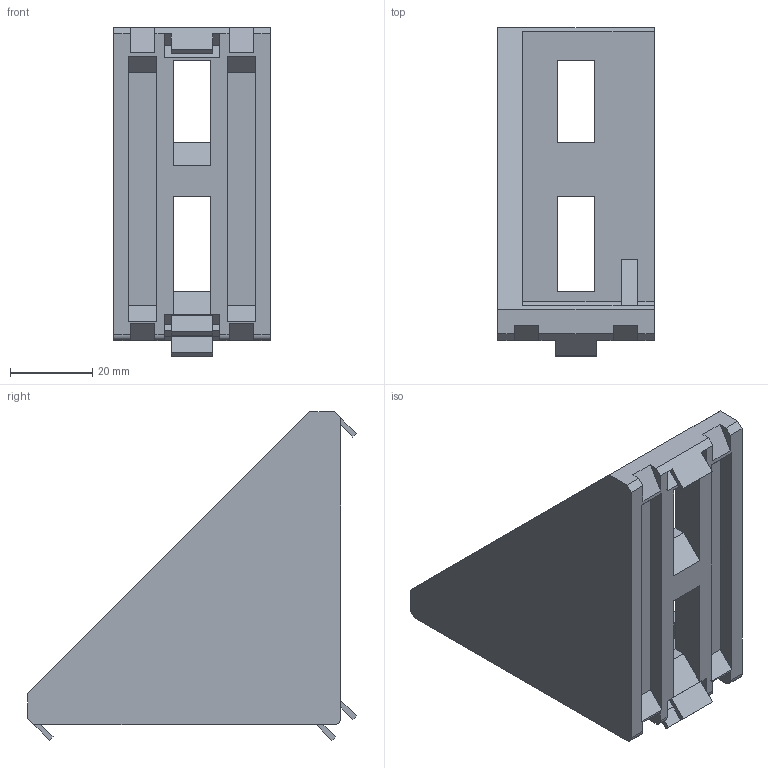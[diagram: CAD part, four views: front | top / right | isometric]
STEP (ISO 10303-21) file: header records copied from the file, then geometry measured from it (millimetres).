
FILE_DESCRIPTION (( 'STEP AP214' ), '1' );
FILE_NAME ('FBFA 38A.step', '2017-04-05T08:01:10', ( '' ), ( '' ), 'SwSTEP 2.0', 'SolidWorks 2015', '' );
FILE_SCHEMA (( 'AUTOMOTIVE_DESIGN' ));
Length unit declared in the file: millimetre
Products named in the file (1): FBFA 38A
Bounding box: 38 x 79.82 x 79.82 mm (x, y, z)
Volume: 45333.5 mm3; surface area: 21380.3 mm2
Topology: 1 solids, 1 shells, 223 faces, 604 edges, 400 vertices
Faces by surface type: plane 177, bspline 40, cylinder 6
Entity records: 10370 total; most frequent: CARTESIAN_POINT 3620, ORIENTED_EDGE 1208, DIRECTION 904, EDGE_CURVE 604, LINE 512, VECTOR 512, VERTEX_POINT 400, EDGE_LOOP 248
